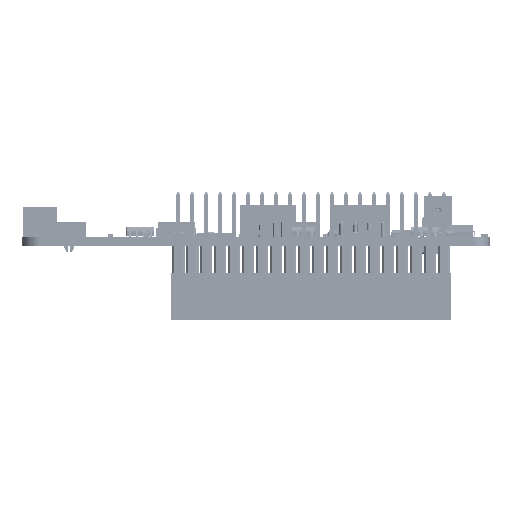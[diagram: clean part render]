
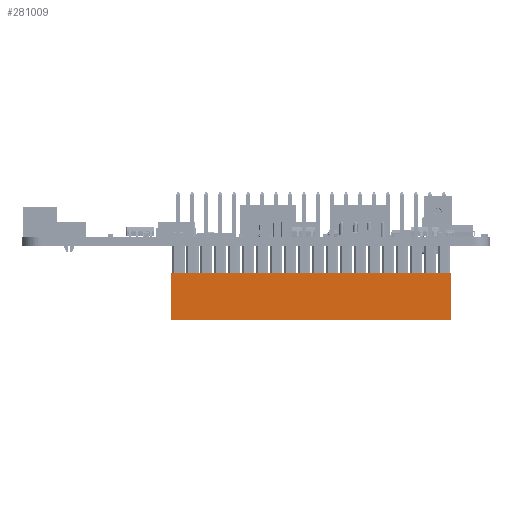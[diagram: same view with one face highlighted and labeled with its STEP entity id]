
A CAD part, front view. The second image highlights one B-rep face of the part: STEP entity #281009.
In plain terms, the highlighted planar face has unit normal (0, -1, 0) as drawn and (0, 0, 1) by its records, which use the part's own axes.
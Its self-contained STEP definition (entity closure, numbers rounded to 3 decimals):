
#246031=DIRECTION('',(-1.,0.,0.));
#246032=VECTOR('',#246031,50.86);
#246033=CARTESIAN_POINT('',(25.43,11.,2.54));
#246034=LINE('',#246033,#246032);
#246913=DIRECTION('',(-1.,0.,0.));
#246914=VECTOR('',#246913,50.86);
#246915=CARTESIAN_POINT('',(25.43,2.5,2.54));
#246916=LINE('',#246915,#246914);
#246920=DIRECTION('',(0.,1.,0.));
#246921=VECTOR('',#246920,8.5);
#246922=CARTESIAN_POINT('',(-25.43,2.5,2.54));
#246923=LINE('',#246922,#246921);
#248293=DIRECTION('',(0.,1.,0.));
#248294=VECTOR('',#248293,8.5);
#248295=CARTESIAN_POINT('',(25.43,2.5,2.54));
#248296=LINE('',#248295,#248294);
#274443=CARTESIAN_POINT('',(25.43,2.5,2.54));
#274445=VERTEX_POINT('',#274443);
#274583=CARTESIAN_POINT('',(25.43,11.,2.54));
#274584=VERTEX_POINT('',#274583);
#278868=CARTESIAN_POINT('',(-25.43,2.5,2.54));
#278870=VERTEX_POINT('',#278868);
#279009=CARTESIAN_POINT('',(-25.43,11.,2.54));
#279010=VERTEX_POINT('',#279009);
#280996=CARTESIAN_POINT('',(22.83,2.5,2.54));
#280997=DIRECTION('',(0.,0.,1.));
#280998=DIRECTION('',(1.,0.,0.));
#280999=AXIS2_PLACEMENT_3D('',#280996,#280997,#280998);
#281000=PLANE('',#280999);
#281001=ORIENTED_EDGE('',*,*,#279764,.T.);
#281003=ORIENTED_EDGE('',*,*,#281002,.T.);
#281004=ORIENTED_EDGE('',*,*,#280639,.F.);
#281006=ORIENTED_EDGE('',*,*,#281005,.F.);
#281007=EDGE_LOOP('',(#281001,#281003,#281004,#281006));
#281008=FACE_OUTER_BOUND('',#281007,.F.);
#281009=ADVANCED_FACE('',(#281008),#281000,.T.);
#279764=EDGE_CURVE('',#274445,#278870,#246916,.T.);
#280639=EDGE_CURVE('',#274584,#279010,#246034,.T.);
#281002=EDGE_CURVE('',#278870,#279010,#246923,.T.);
#281005=EDGE_CURVE('',#274445,#274584,#248296,.T.);
